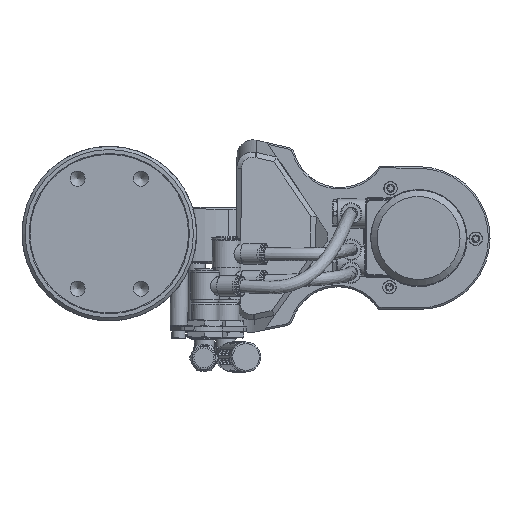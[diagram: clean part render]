
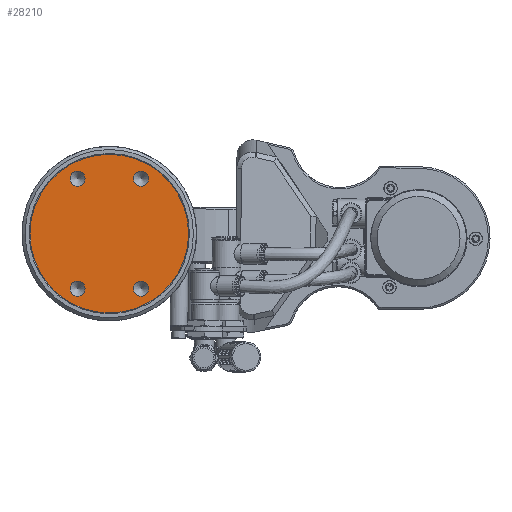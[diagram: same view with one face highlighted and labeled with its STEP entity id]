
A CAD part, top view. The second image highlights one B-rep face of the part: STEP entity #28210.
In plain terms, the highlighted planar face has unit normal (0, 0, 1).
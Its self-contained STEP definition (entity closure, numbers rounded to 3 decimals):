
#1221=CIRCLE('',#29852,50.);
#1224=CIRCLE('',#29857,4.75);
#1225=CIRCLE('',#29859,4.75);
#1226=CIRCLE('',#29861,4.75);
#1227=CIRCLE('',#29862,4.75);
#3546=FACE_BOUND('',#6979,.T.);
#3547=FACE_BOUND('',#6980,.T.);
#3548=FACE_BOUND('',#6981,.T.);
#3549=FACE_BOUND('',#6982,.T.);
#5318=FACE_OUTER_BOUND('',#6978,.T.);
#6978=EDGE_LOOP('',(#22228));
#6979=EDGE_LOOP('',(#22229));
#6980=EDGE_LOOP('',(#22230));
#6981=EDGE_LOOP('',(#22231));
#6982=EDGE_LOOP('',(#22232));
#13107=VERTEX_POINT('',#47571);
#13110=VERTEX_POINT('',#47581);
#13112=VERTEX_POINT('',#47586);
#13114=VERTEX_POINT('',#47591);
#13115=VERTEX_POINT('',#47593);
#16451=EDGE_CURVE('',#13107,#13107,#1221,.T.);
#16456=EDGE_CURVE('',#13110,#13110,#1224,.T.);
#16458=EDGE_CURVE('',#13112,#13112,#1225,.T.);
#16460=EDGE_CURVE('',#13114,#13114,#1226,.T.);
#16461=EDGE_CURVE('',#13115,#13115,#1227,.T.);
#22228=ORIENTED_EDGE('',*,*,#16451,.F.);
#22229=ORIENTED_EDGE('',*,*,#16460,.F.);
#22230=ORIENTED_EDGE('',*,*,#16456,.F.);
#22231=ORIENTED_EDGE('',*,*,#16461,.F.);
#22232=ORIENTED_EDGE('',*,*,#16458,.F.);
#27204=PLANE('',#29860);
#28210=ADVANCED_FACE('',(#5318,#3546,#3547,#3548,#3549),#27204,.T.);
#29852=AXIS2_PLACEMENT_3D('',#47572,#34066,#34067);
#29857=AXIS2_PLACEMENT_3D('',#47582,#34078,#34079);
#29859=AXIS2_PLACEMENT_3D('',#47587,#34083,#34084);
#29860=AXIS2_PLACEMENT_3D('',#47590,#34086,#34087);
#29861=AXIS2_PLACEMENT_3D('',#47592,#34088,#34089);
#29862=AXIS2_PLACEMENT_3D('',#47594,#34090,#34091);
#34066=DIRECTION('center_axis',(0.,0.,
-1.));
#34067=DIRECTION('ref_axis',(-1.,0.,0.));
#34078=DIRECTION('center_axis',(0.,0.,
1.));
#34079=DIRECTION('ref_axis',(-1.,0.,0.));
#34083=DIRECTION('center_axis',(0.,0.,
1.));
#34084=DIRECTION('ref_axis',(-1.,0.,0.));
#34086=DIRECTION('center_axis',(0.,0.,
1.));
#34087=DIRECTION('ref_axis',(1.,0.,0.));
#34088=DIRECTION('center_axis',(0.,0.,
1.));
#34089=DIRECTION('ref_axis',(-1.,0.,0.));
#34090=DIRECTION('center_axis',(0.,0.,
1.));
#34091=DIRECTION('ref_axis',(-1.,0.,0.));
#47571=CARTESIAN_POINT('',(-41.317,64.758,185.));
#47572=CARTESIAN_POINT('Origin',(-91.317,64.758,185.));
#47581=CARTESIAN_POINT('',(-106.567,30.117,185.));
#47582=CARTESIAN_POINT('Origin',(-111.317,30.117,185.));
#47586=CARTESIAN_POINT('',(-66.567,99.399,185.));
#47587=CARTESIAN_POINT('Origin',(-71.317,99.399,185.));
#47590=CARTESIAN_POINT('Origin',(-91.317,64.758,185.));
#47591=CARTESIAN_POINT('',(-66.567,30.117,185.));
#47592=CARTESIAN_POINT('Origin',(-71.317,30.117,185.));
#47593=CARTESIAN_POINT('',(-106.567,99.399,185.));
#47594=CARTESIAN_POINT('Origin',(-111.317,99.399,185.));
